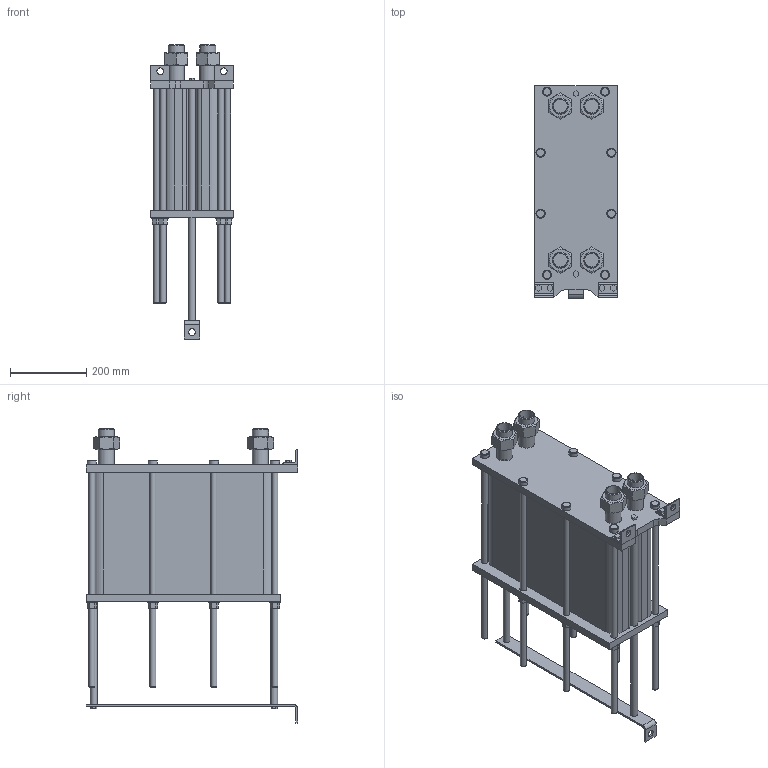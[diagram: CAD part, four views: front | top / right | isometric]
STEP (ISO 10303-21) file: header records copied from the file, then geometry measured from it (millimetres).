
FILE_DESCRIPTION(/* description */ (''),/* implementation_level */ '2;1');
FILE_NAME(/* name */ 'C:\Users\zhuro\Desktop\ENCO\TO\ЭН-004\ЭН-0,5-004-103-1.stp',/* time_stamp */ '2022-06-06T10:52:42+03:00',/* author */ ('zhuro'),/* organization */ (''),/* preprocessor_version */ 'ST-DEVELOPER v18.1',/* originating_system */ 'Autodesk Inventor 2022',/* authorisation */ '');
FILE_SCHEMA (('AUTOMOTIVE_DESIGN { 1 0 10303 214 3 1 1 }'));
Length unit declared in the file: millimetre
Products named in the file (1): ЭН-0,5-004-103-1
Bounding box: 216 x 555 x 771.4 mm (x, y, z)
Volume: 29711343.6 mm3; surface area: 1650026 mm2
Topology: 40 solids, 40 shells, 403 faces, 865 edges, 574 vertices
Faces by surface type: plane 272, cylinder 103, cone 28
Full cylindrical faces by diameter (mm): 10 x4, 16 x16, 18 x29, 20 x2, 24 x8, 28 x8, 36.3 x5, 42.3 x9
Entity records: 11137 total; most frequent: CARTESIAN_POINT 1939, DIRECTION 1879, ORIENTED_EDGE 1730, EDGE_CURVE 865, AXIS2_PLACEMENT_3D 658, VERTEX_POINT 574, LINE 563, VECTOR 563
